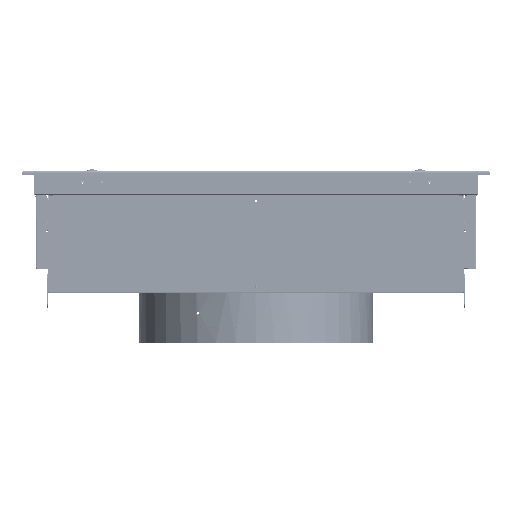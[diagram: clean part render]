
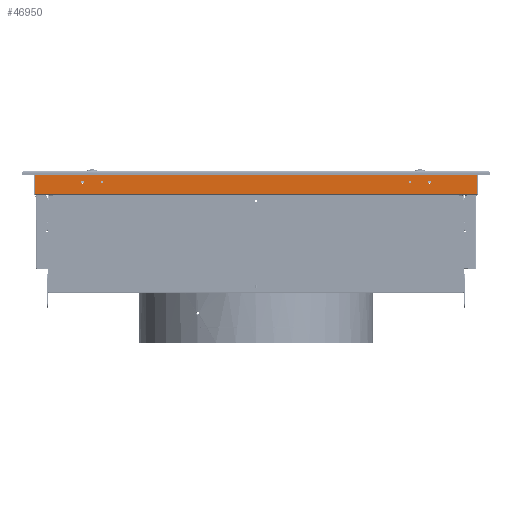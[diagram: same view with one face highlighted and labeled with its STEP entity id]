
A CAD part, left-side view. The second image highlights one B-rep face of the part: STEP entity #46950.
In plain terms, the highlighted planar face has unit normal (-1, 0, 0).
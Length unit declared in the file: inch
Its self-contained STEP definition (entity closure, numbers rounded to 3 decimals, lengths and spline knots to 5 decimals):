
#1049 = AXIS2_PLACEMENT_3D ( 'NONE', #1833, #61409, #19313 ) ;
#1833 = CARTESIAN_POINT ( 'NONE',  ( -17.268, -7.8141, -0.5545 ) ) ;
#2777 = VERTEX_POINT ( 'NONE', #8390 ) ;
#6685 = DIRECTION ( 'NONE',  ( 1., 0., 0. ) ) ;
#8390 = CARTESIAN_POINT ( 'NONE',  ( -17.268, 8.8141, -0.6245 ) ) ;
#8404 = EDGE_CURVE ( 'NONE', #105780, #105806, #93658, .T. ) ;
#10635 = CARTESIAN_POINT ( 'NONE',  ( -17.268, -13.90153, -1.137 ) ) ;
#10779 = VERTEX_POINT ( 'NONE', #88970 ) ;
#10937 = FACE_OUTER_BOUND ( 'NONE', #12336, .T. ) ;
#11054 = CIRCLE ( 'NONE', #32017, 0.07 ) ;
#12336 = EDGE_LOOP ( 'NONE', ( #35170, #74347, #69483, #97706 ) ) ;
#13564 = LINE ( 'NONE', #46890, #92275 ) ;
#16512 = EDGE_CURVE ( 'NONE', #10779, #39842, #39302, .T. ) ;
#17194 = ORIENTED_EDGE ( 'NONE', *, *, #105232, .T. ) ;
#17248 = CARTESIAN_POINT ( 'NONE',  ( -17.268, -8.8141, -0.4845 ) ) ;
#17728 = ORIENTED_EDGE ( 'NONE', *, *, #20530, .T. ) ;
#18299 = ORIENTED_EDGE ( 'NONE', *, *, #91440, .T. ) ;
#18622 = PLANE ( 'NONE',  #69007 ) ;
#19313 = DIRECTION ( 'NONE',  ( 0., 0., -1. ) ) ;
#19630 = ORIENTED_EDGE ( 'NONE', *, *, #99174, .T. ) ;
#20530 = EDGE_CURVE ( 'NONE', #75740, #84535, #62334, .T. ) ;
#22897 = AXIS2_PLACEMENT_3D ( 'NONE', #48225, #6685, #106865 ) ;
#23248 = EDGE_CURVE ( 'NONE', #105780, #39842, #85653, .T. ) ;
#24343 = VECTOR ( 'NONE', #96382, 39.37008 ) ;
#26478 = EDGE_CURVE ( 'NONE', #96866, #106908, #63030, .T. ) ;
#27969 = DIRECTION ( 'NONE',  ( 0., 0., -1. ) ) ;
#30231 = DIRECTION ( 'NONE',  ( 0., 1., 0. ) ) ;
#32017 = AXIS2_PLACEMENT_3D ( 'NONE', #48009, #90231, #56758 ) ;
#33894 = CARTESIAN_POINT ( 'NONE',  ( -17.268, -13.90153, 0. ) ) ;
#35170 = ORIENTED_EDGE ( 'NONE', *, *, #8404, .T. ) ;
#35231 = CARTESIAN_POINT ( 'NONE',  ( -17.268, 7.8141, -0.6245 ) ) ;
#35441 = DIRECTION ( 'NONE',  ( 0., 0., -1. ) ) ;
#35458 = EDGE_CURVE ( 'NONE', #106908, #96866, #93689, .T. ) ;
#38132 = ORIENTED_EDGE ( 'NONE', *, *, #35458, .T. ) ;
#39073 = DIRECTION ( 'NONE',  ( 1., 0., 0. ) ) ;
#39302 = LINE ( 'NONE', #80999, #24343 ) ;
#39842 = VERTEX_POINT ( 'NONE', #95094 ) ;
#40183 = CARTESIAN_POINT ( 'NONE',  ( -17.268, -11.233, -1.137 ) ) ;
#43434 = CARTESIAN_POINT ( 'NONE',  ( -17.268, 7.8141, -0.5545 ) ) ;
#43723 = DIRECTION ( 'NONE',  ( 1., 0., 0. ) ) ;
#43800 = CIRCLE ( 'NONE', #22897, 0.07 ) ;
#44313 = EDGE_LOOP ( 'NONE', ( #19630, #17728 ) ) ;
#46563 = DIRECTION ( 'NONE',  ( 1., 0., 0. ) ) ;
#46890 = CARTESIAN_POINT ( 'NONE',  ( -17.268, -13.90153, -0.066 ) ) ;
#46950 = ADVANCED_FACE ( 'NONE', ( #78256, #93103, #84888, #93646, #10937 ), #18622, .F. ) ;
#48009 = CARTESIAN_POINT ( 'NONE',  ( -17.268, -8.8141, -0.5545 ) ) ;
#48225 = CARTESIAN_POINT ( 'NONE',  ( -17.268, 8.8141, -0.5545 ) ) ;
#49423 = EDGE_CURVE ( 'NONE', #105806, #10779, #13564, .T. ) ;
#51681 = DIRECTION ( 'NONE',  ( 1., 0., 0. ) ) ;
#52097 = CARTESIAN_POINT ( 'NONE',  ( -17.268, 8.8141, -0.4845 ) ) ;
#52779 = EDGE_LOOP ( 'NONE', ( #38132, #99889 ) ) ;
#53154 = CARTESIAN_POINT ( 'NONE',  ( -17.268, 8.8141, -0.5545 ) ) ;
#53962 = EDGE_CURVE ( 'NONE', #2777, #74841, #61247, .T. ) ;
#56758 = DIRECTION ( 'NONE',  ( 0., 0., -1. ) ) ;
#56788 = VERTEX_POINT ( 'NONE', #17248 ) ;
#57186 = CARTESIAN_POINT ( 'NONE',  ( -17.268, -7.8141, -0.4845 ) ) ;
#57887 = CARTESIAN_POINT ( 'NONE',  ( -17.268, 7.8141, -0.4845 ) ) ;
#58729 = EDGE_LOOP ( 'NONE', ( #69242, #18299 ) ) ;
#59105 = CARTESIAN_POINT ( 'NONE',  ( -17.268, -11.233, 0. ) ) ;
#59422 = DIRECTION ( 'NONE',  ( 0., 1., 0. ) ) ;
#60643 = CARTESIAN_POINT ( 'NONE',  ( -17.268, -7.8141, -0.5545 ) ) ;
#60723 = DIRECTION ( 'NONE',  ( 0., 0., 1. ) ) ;
#61247 = CIRCLE ( 'NONE', #85784, 0.07 ) ;
#61409 = DIRECTION ( 'NONE',  ( 1., 0., 0. ) ) ;
#62105 = VERTEX_POINT ( 'NONE', #96774 ) ;
#62334 = CIRCLE ( 'NONE', #86871, 0.07 ) ;
#62735 = AXIS2_PLACEMENT_3D ( 'NONE', #63744, #103795, #63211 ) ;
#62957 = AXIS2_PLACEMENT_3D ( 'NONE', #60643, #39073, #35441 ) ;
#63030 = CIRCLE ( 'NONE', #62957, 0.07 ) ;
#63211 = DIRECTION ( 'NONE',  ( 0., 0., -1. ) ) ;
#63744 = CARTESIAN_POINT ( 'NONE',  ( -17.268, -8.8141, -0.5545 ) ) ;
#65962 = EDGE_CURVE ( 'NONE', #56788, #62105, #97813, .T. ) ;
#66807 = DIRECTION ( 'NONE',  ( 1., 0., 0. ) ) ;
#68049 = VECTOR ( 'NONE', #30231, 39.37008 ) ;
#69007 = AXIS2_PLACEMENT_3D ( 'NONE', #33894, #43723, #77177 ) ;
#69242 = ORIENTED_EDGE ( 'NONE', *, *, #53962, .T. ) ;
#69483 = ORIENTED_EDGE ( 'NONE', *, *, #16512, .T. ) ;
#70285 = VECTOR ( 'NONE', #60723, 39.37008 ) ;
#74347 = ORIENTED_EDGE ( 'NONE', *, *, #49423, .T. ) ;
#74841 = VERTEX_POINT ( 'NONE', #52097 ) ;
#75136 = CIRCLE ( 'NONE', #92682, 0.07 ) ;
#75740 = VERTEX_POINT ( 'NONE', #57887 ) ;
#77177 = DIRECTION ( 'NONE',  ( 0., 0., -1. ) ) ;
#78256 = FACE_BOUND ( 'NONE', #52779, .T. ) ;
#80999 = CARTESIAN_POINT ( 'NONE',  ( -17.268, 11.233, 0. ) ) ;
#82720 = CARTESIAN_POINT ( 'NONE',  ( -17.268, -7.8141, -0.6245 ) ) ;
#84535 = VERTEX_POINT ( 'NONE', #35231 ) ;
#84888 = FACE_BOUND ( 'NONE', #44313, .T. ) ;
#85653 = LINE ( 'NONE', #10635, #68049 ) ;
#85784 = AXIS2_PLACEMENT_3D ( 'NONE', #53154, #46563, #27969 ) ;
#86871 = AXIS2_PLACEMENT_3D ( 'NONE', #43434, #51681, #93878 ) ;
#88970 = CARTESIAN_POINT ( 'NONE',  ( -17.268, 11.233, -0.066 ) ) ;
#90231 = DIRECTION ( 'NONE',  ( 1., 0., 0. ) ) ;
#90979 = CARTESIAN_POINT ( 'NONE',  ( -17.268, 7.8141, -0.5545 ) ) ;
#91440 = EDGE_CURVE ( 'NONE', #74841, #2777, #43800, .T. ) ;
#92032 = DIRECTION ( 'NONE',  ( 0., 0., -1. ) ) ;
#92275 = VECTOR ( 'NONE', #59422, 39.37008 ) ;
#92682 = AXIS2_PLACEMENT_3D ( 'NONE', #90979, #66807, #92032 ) ;
#93103 = FACE_BOUND ( 'NONE', #102030, .T. ) ;
#93646 = FACE_BOUND ( 'NONE', #58729, .T. ) ;
#93658 = LINE ( 'NONE', #59105, #70285 ) ;
#93689 = CIRCLE ( 'NONE', #1049, 0.07 ) ;
#93878 = DIRECTION ( 'NONE',  ( 0., 0., -1. ) ) ;
#95094 = CARTESIAN_POINT ( 'NONE',  ( -17.268, 11.233, -1.137 ) ) ;
#96382 = DIRECTION ( 'NONE',  ( 0., 0., -1. ) ) ;
#96774 = CARTESIAN_POINT ( 'NONE',  ( -17.268, -8.8141, -0.6245 ) ) ;
#96866 = VERTEX_POINT ( 'NONE', #57186 ) ;
#97706 = ORIENTED_EDGE ( 'NONE', *, *, #23248, .F. ) ;
#97813 = CIRCLE ( 'NONE', #62735, 0.07 ) ;
#99174 = EDGE_CURVE ( 'NONE', #84535, #75740, #75136, .T. ) ;
#99889 = ORIENTED_EDGE ( 'NONE', *, *, #26478, .T. ) ;
#99914 = CARTESIAN_POINT ( 'NONE',  ( -17.268, -11.233, -0.066 ) ) ;
#102030 = EDGE_LOOP ( 'NONE', ( #17194, #102131 ) ) ;
#102131 = ORIENTED_EDGE ( 'NONE', *, *, #65962, .T. ) ;
#103795 = DIRECTION ( 'NONE',  ( 1., 0., 0. ) ) ;
#105232 = EDGE_CURVE ( 'NONE', #62105, #56788, #11054, .T. ) ;
#105780 = VERTEX_POINT ( 'NONE', #40183 ) ;
#105806 = VERTEX_POINT ( 'NONE', #99914 ) ;
#106865 = DIRECTION ( 'NONE',  ( 0., 0., -1. ) ) ;
#106908 = VERTEX_POINT ( 'NONE', #82720 ) ;
